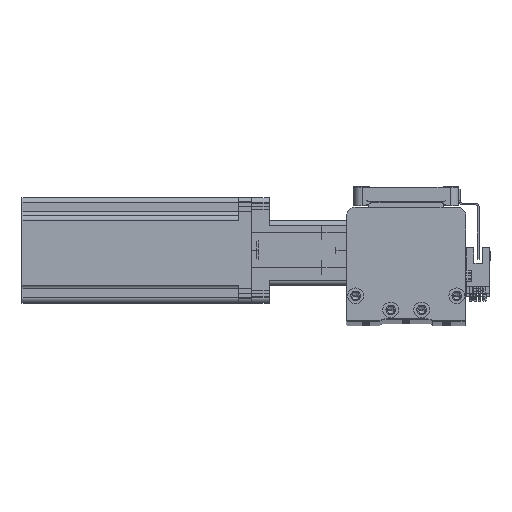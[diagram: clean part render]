
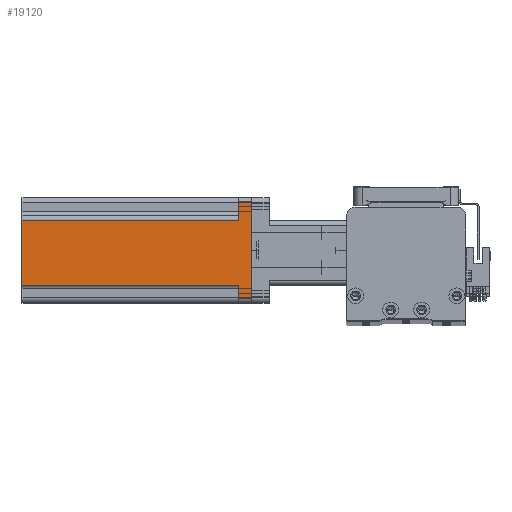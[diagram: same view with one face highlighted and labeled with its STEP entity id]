
A CAD part, top view. The second image highlights one B-rep face of the part: STEP entity #19120.
In plain terms, the highlighted planar face has unit normal (0, 0, 1) as drawn and (-1, 0, 0) by its records, which use the part's own axes.
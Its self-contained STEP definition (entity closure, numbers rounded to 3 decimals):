
#1627 = CARTESIAN_POINT ( 'NONE',  ( -30., -17., 7.5 ) ) ;
#2908 = CARTESIAN_POINT ( 'NONE',  ( -30., 20., 7.5 ) ) ;
#3370 = EDGE_CURVE ( 'NONE', #25240, #6448, #21330, .T. ) ;
#3676 = CARTESIAN_POINT ( 'NONE',  ( -30., -27., 0. ) ) ;
#3797 = LINE ( 'NONE', #30963, #44063 ) ;
#6399 = CARTESIAN_POINT ( 'NONE',  ( -30., 30., 7.5 ) ) ;
#6448 = VERTEX_POINT ( 'NONE', #26212 ) ;
#7036 = AXIS2_PLACEMENT_3D ( 'NONE', #9471, #36694, #13346 ) ;
#7458 = VECTOR ( 'NONE', #10102, 1000. ) ;
#7527 = ORIENTED_EDGE ( 'NONE', *, *, #31881, .F. ) ;
#7614 = CARTESIAN_POINT ( 'NONE',  ( -30., -27., 130.7 ) ) ;
#7762 = EDGE_CURVE ( 'NONE', #6448, #8299, #3797, .T. ) ;
#8299 = VERTEX_POINT ( 'NONE', #36004 ) ;
#9471 = CARTESIAN_POINT ( 'NONE',  ( -30., -30., 130.7 ) ) ;
#10102 = DIRECTION ( 'NONE',  ( 0., -1., 0. ) ) ;
#11028 = VECTOR ( 'NONE', #25882, 1000. ) ;
#11483 = DIRECTION ( 'NONE',  ( 0., 0., 1. ) ) ;
#11744 = DIRECTION ( 'NONE',  ( 0., 0., -1. ) ) ;
#12249 = ORIENTED_EDGE ( 'NONE', *, *, #3370, .T. ) ;
#13346 = DIRECTION ( 'NONE',  ( 0., 0., -1. ) ) ;
#13638 = VECTOR ( 'NONE', #11483, 1000. ) ;
#14264 = CARTESIAN_POINT ( 'NONE',  ( -30., 20., 130.7 ) ) ;
#14275 = CARTESIAN_POINT ( 'NONE',  ( -30., -27., 7.5 ) ) ;
#16131 = ORIENTED_EDGE ( 'NONE', *, *, #18010, .F. ) ;
#16490 = EDGE_LOOP ( 'NONE', ( #16131, #27284, #28729, #7527, #12249, #21311, #39813, #39445 ) ) ;
#17103 = PLANE ( 'NONE',  #7036 ) ;
#18010 = EDGE_CURVE ( 'NONE', #34519, #43622, #18024, .T. ) ;
#18024 = LINE ( 'NONE', #20566, #37550 ) ;
#18940 = LINE ( 'NONE', #33427, #7458 ) ;
#19120 = ADVANCED_FACE ( 'NONE', ( #30626 ), #17103, .F. ) ;
#19465 = LINE ( 'NONE', #2908, #40248 ) ;
#19605 = VERTEX_POINT ( 'NONE', #33096 ) ;
#20566 = CARTESIAN_POINT ( 'NONE',  ( -30., -30., 7.5 ) ) ;
#21311 = ORIENTED_EDGE ( 'NONE', *, *, #7762, .T. ) ;
#21330 = LINE ( 'NONE', #6399, #11028 ) ;
#23661 = VECTOR ( 'NONE', #27918, 1000. ) ;
#23970 = CARTESIAN_POINT ( 'NONE',  ( -30., -17., 130.7 ) ) ;
#25240 = VERTEX_POINT ( 'NONE', #44062 ) ;
#25593 = EDGE_CURVE ( 'NONE', #36146, #43622, #34387, .T. ) ;
#25882 = DIRECTION ( 'NONE',  ( 0., 1., 0. ) ) ;
#26212 = CARTESIAN_POINT ( 'NONE',  ( -30., 27., 7.5 ) ) ;
#27284 = ORIENTED_EDGE ( 'NONE', *, *, #27523, .T. ) ;
#27523 = EDGE_CURVE ( 'NONE', #34519, #19605, #34121, .T. ) ;
#27918 = DIRECTION ( 'NONE',  ( 0., 0., 1. ) ) ;
#28729 = ORIENTED_EDGE ( 'NONE', *, *, #41960, .F. ) ;
#30626 = FACE_OUTER_BOUND ( 'NONE', #16490, .T. ) ;
#30963 = CARTESIAN_POINT ( 'NONE',  ( -30., 27., 130.7 ) ) ;
#31881 = EDGE_CURVE ( 'NONE', #25240, #32475, #19465, .T. ) ;
#32475 = VERTEX_POINT ( 'NONE', #14264 ) ;
#33096 = CARTESIAN_POINT ( 'NONE',  ( -30., -17., 130.7 ) ) ;
#33427 = CARTESIAN_POINT ( 'NONE',  ( -30., -30., 0. ) ) ;
#33543 = DIRECTION ( 'NONE',  ( 0., -1., 0. ) ) ;
#34121 = LINE ( 'NONE', #23970, #23661 ) ;
#34387 = LINE ( 'NONE', #7614, #13638 ) ;
#34519 = VERTEX_POINT ( 'NONE', #1627 ) ;
#35950 = LINE ( 'NONE', #45099, #45093 ) ;
#36004 = CARTESIAN_POINT ( 'NONE',  ( -30., 27., 0. ) ) ;
#36146 = VERTEX_POINT ( 'NONE', #3676 ) ;
#36694 = DIRECTION ( 'NONE',  ( 1., 0., 0. ) ) ;
#37550 = VECTOR ( 'NONE', #47832, 1000. ) ;
#39445 = ORIENTED_EDGE ( 'NONE', *, *, #25593, .T. ) ;
#39813 = ORIENTED_EDGE ( 'NONE', *, *, #41332, .T. ) ;
#40248 = VECTOR ( 'NONE', #49500, 1000. ) ;
#41332 = EDGE_CURVE ( 'NONE', #8299, #36146, #18940, .T. ) ;
#41960 = EDGE_CURVE ( 'NONE', #32475, #19605, #35950, .T. ) ;
#43622 = VERTEX_POINT ( 'NONE', #14275 ) ;
#44062 = CARTESIAN_POINT ( 'NONE',  ( -30., 20., 7.5 ) ) ;
#44063 = VECTOR ( 'NONE', #11744, 1000. ) ;
#45093 = VECTOR ( 'NONE', #33543, 1000. ) ;
#45099 = CARTESIAN_POINT ( 'NONE',  ( -30., -30., 130.7 ) ) ;
#47832 = DIRECTION ( 'NONE',  ( 0., -1., 0. ) ) ;
#49500 = DIRECTION ( 'NONE',  ( 0., 0., 1. ) ) ;
